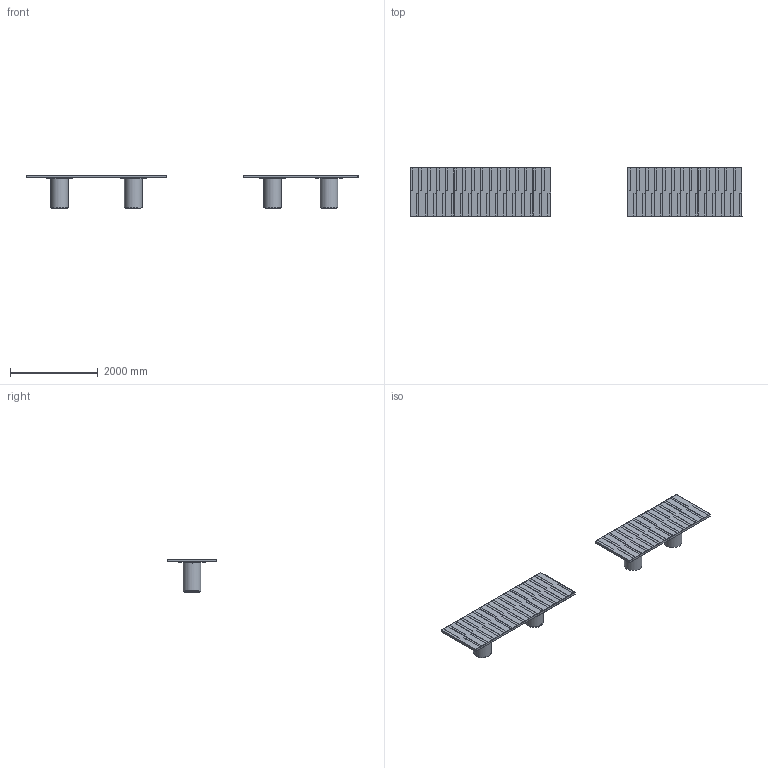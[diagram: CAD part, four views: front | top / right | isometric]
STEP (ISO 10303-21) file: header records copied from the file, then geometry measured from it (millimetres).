
FILE_DESCRIPTION(/* description */ (''),/* implementation_level */ '2;1');
FILE_NAME(/* name */ 'TAVOLO CHARPIN step.stp',/* time_stamp */ '2025-01-20T15:23:17+01:00',/* author */ (''),/* organization */ (''),/* preprocessor_version */ 'ST-DEVELOPER v16.7',/* originating_system */ 'SIEMENS PLM Software NX 1934',/* authorisation */ '');
FILE_SCHEMA (('AUTOMOTIVE_DESIGN { 1 0 10303 214 3 1 1 1 }'));
Length unit declared in the file: millimetre
Products named in the file (1): andr3F6466FB91zi
Bounding box: 7550 x 1100 x 749 mm (x, y, z)
Volume: 695325649.2 mm3; surface area: 25456246.8 mm2
Topology: 104 solids, 104 shells, 1995 faces, 4734 edges, 2913 vertices
Faces by surface type: plane 1239, cylinder 282, bspline 160, extrusion 116, sphere 96, cone 52, torus 50
Full cylindrical faces by diameter (mm): 8 x32, 10 x16, 14 x16, 366 x2, 400 x4, 600 x4
Entity records: 58727 total; most frequent: CARTESIAN_POINT 14325, ORIENTED_EDGE 8982, DIRECTION 8657, EDGE_CURVE 4491, VECTOR 3213, LINE 3097, VERTEX_POINT 2878, AXIS2_PLACEMENT_3D 2722
